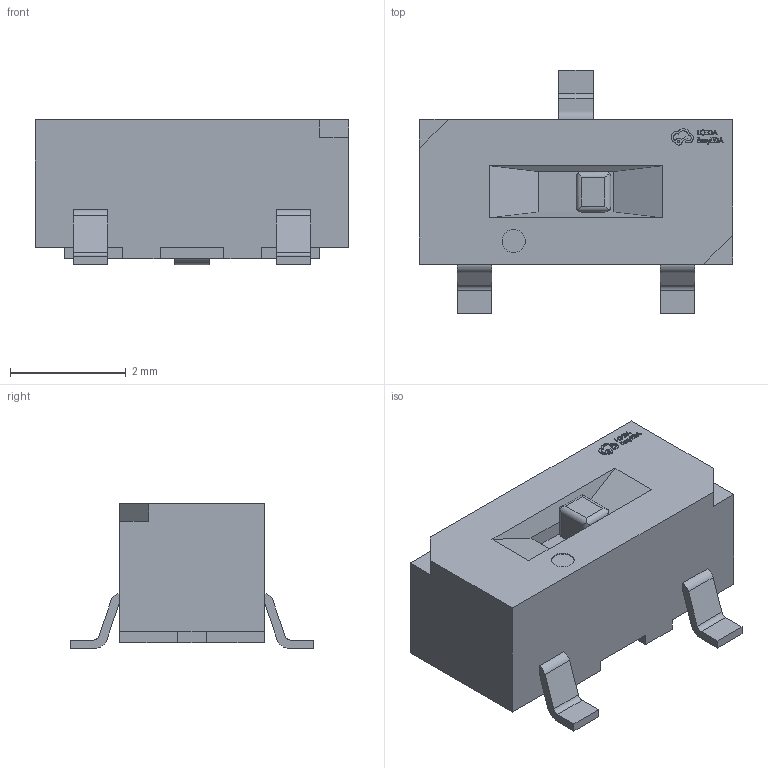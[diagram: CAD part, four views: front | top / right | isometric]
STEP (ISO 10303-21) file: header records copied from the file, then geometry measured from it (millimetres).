
FILE_DESCRIPTION (( 'STEP AP214' ), '1' );
FILE_NAME ('SW-SMD_3P-L5.4-W2.5-P3.50-LS4.2.STEP', '2024-12-15T11:24:30', ( 'User' ), ( 'China' ), 'SwSTEP 2.0', 'SolidWorks 2020', '' );
FILE_SCHEMA (( 'AUTOMOTIVE_DESIGN' ));
Length unit declared in the file: millimetre
Products named in the file (1): SW-SMD_3P-L5.4-W2.5-P3.50-LS4.2
Bounding box: 5.4 x 4.2 x 2.51 mm (x, y, z)
Volume: 30.4 mm3; surface area: 75.9 mm2
Topology: 2 solids, 2 shells, 310 faces, 842 edges, 560 vertices
Faces by surface type: plane 193, bspline 98, cylinder 19
Entity records: 13645 total; most frequent: CARTESIAN_POINT 3055, ORIENTED_EDGE 1684, DIRECTION 1082, EDGE_CURVE 842, VECTOR 604, LINE 604, VERTEX_POINT 560, EDGE_LOOP 334
